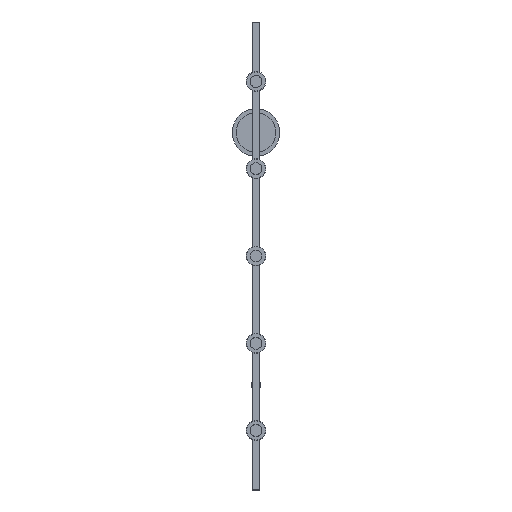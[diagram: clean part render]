
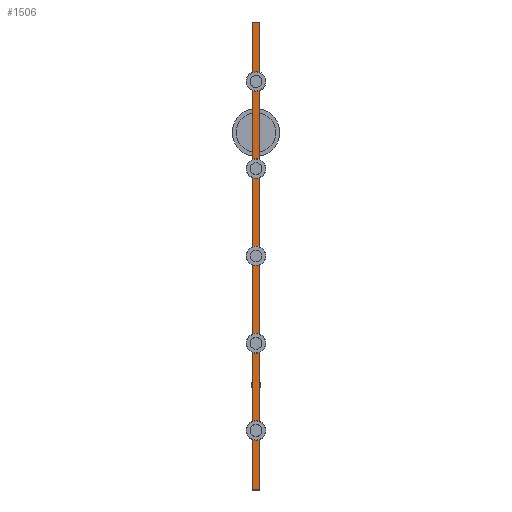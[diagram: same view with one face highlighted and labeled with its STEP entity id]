
A CAD part, front view. The second image highlights one B-rep face of the part: STEP entity #1506.
In plain terms, the highlighted planar face has unit normal (0, -1, 0).
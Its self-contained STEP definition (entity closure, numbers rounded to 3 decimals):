
#3 = VERTEX_POINT ( 'NONE', #2049 ) ;
#30 = VECTOR ( 'NONE', #2460, 1000. ) ;
#132 = EDGE_CURVE ( 'NONE', #1647, #1555, #1552, .T. ) ;
#141 = LINE ( 'NONE', #1795, #1166 ) ;
#180 = AXIS2_PLACEMENT_3D ( 'NONE', #504, #710, #684 ) ;
#266 = EDGE_LOOP ( 'NONE', ( #641, #1287, #986, #2057 ) ) ;
#400 = VERTEX_POINT ( 'NONE', #1750 ) ;
#419 = EDGE_CURVE ( 'NONE', #3, #400, #1463, .T. ) ;
#424 = CARTESIAN_POINT ( 'NONE',  ( -9., -5., 1179. ) ) ;
#504 = CARTESIAN_POINT ( 'NONE',  ( -10., -5., 1180. ) ) ;
#579 = LINE ( 'NONE', #1053, #30 ) ;
#641 = ORIENTED_EDGE ( 'NONE', *, *, #1899, .T. ) ;
#684 = DIRECTION ( 'NONE',  ( 0., 0., 1. ) ) ;
#710 = DIRECTION ( 'NONE',  ( 0., 1., 0. ) ) ;
#748 = CARTESIAN_POINT ( 'NONE',  ( 9., -5., 1180. ) ) ;
#767 = DIRECTION ( 'NONE',  ( 0., 0., 1. ) ) ;
#891 = PLANE ( 'NONE',  #180 ) ;
#913 = CARTESIAN_POINT ( 'NONE',  ( -9., -5., 1. ) ) ;
#986 = ORIENTED_EDGE ( 'NONE', *, *, #1427, .T. ) ;
#1053 = CARTESIAN_POINT ( 'NONE',  ( -10., -5., 1. ) ) ;
#1166 = VECTOR ( 'NONE', #1374, 1000. ) ;
#1287 = ORIENTED_EDGE ( 'NONE', *, *, #419, .T. ) ;
#1324 = VECTOR ( 'NONE', #767, 1000. ) ;
#1374 = DIRECTION ( 'NONE',  ( -1., 0., 0. ) ) ;
#1427 = EDGE_CURVE ( 'NONE', #400, #1647, #141, .T. ) ;
#1463 = LINE ( 'NONE', #748, #1324 ) ;
#1506 = ADVANCED_FACE ( 'NONE', ( #2545 ), #891, .F. ) ;
#1552 = LINE ( 'NONE', #1829, #2235 ) ;
#1555 = VERTEX_POINT ( 'NONE', #913 ) ;
#1647 = VERTEX_POINT ( 'NONE', #424 ) ;
#1750 = CARTESIAN_POINT ( 'NONE',  ( 9., -5., 1179. ) ) ;
#1795 = CARTESIAN_POINT ( 'NONE',  ( -10., -5., 1179. ) ) ;
#1829 = CARTESIAN_POINT ( 'NONE',  ( -9., -5., 1180. ) ) ;
#1899 = EDGE_CURVE ( 'NONE', #1555, #3, #579, .T. ) ;
#2026 = DIRECTION ( 'NONE',  ( 0., 0., -1. ) ) ;
#2049 = CARTESIAN_POINT ( 'NONE',  ( 9., -5., 1. ) ) ;
#2057 = ORIENTED_EDGE ( 'NONE', *, *, #132, .T. ) ;
#2235 = VECTOR ( 'NONE', #2026, 1000. ) ;
#2460 = DIRECTION ( 'NONE',  ( 1., 0., 0. ) ) ;
#2545 = FACE_OUTER_BOUND ( 'NONE', #266, .T. ) ;
